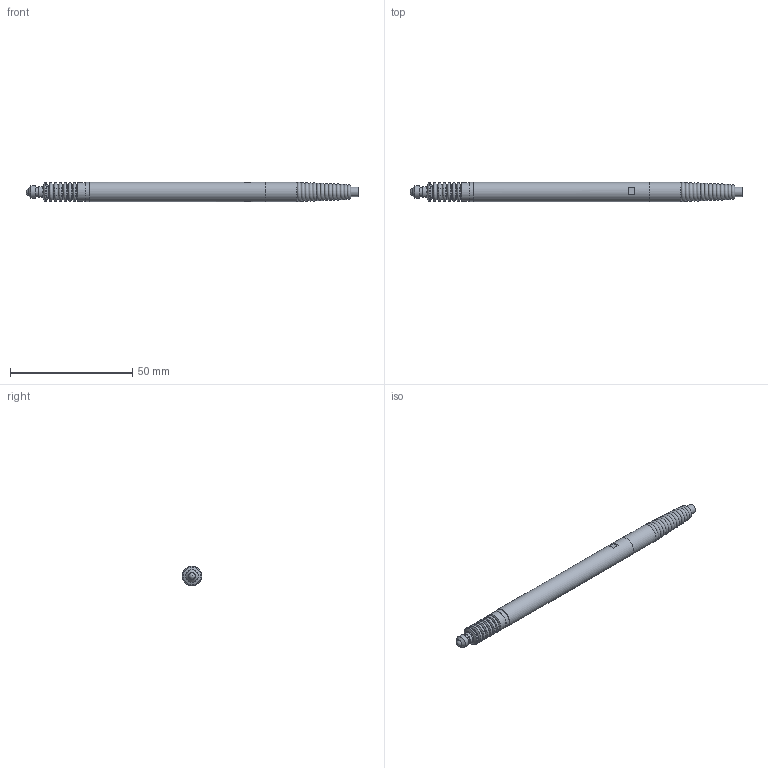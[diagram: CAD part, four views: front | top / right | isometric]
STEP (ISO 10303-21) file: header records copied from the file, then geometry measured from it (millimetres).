
FILE_DESCRIPTION(('STEP AP203'),'1');
FILE_NAME('IP-8S.stp','2023-04-04T02:48:53',(' '),(' '),'Spatial InterOp 3D',' ',' ');
FILE_SCHEMA(('CONFIG_CONTROL_DESIGN'));
Length unit declared in the file: millimetre
Products named in the file (8): IP-8S; 파트1; IP-8S rubber; 부품 B; RUBBER CAP; IP-8S-1
Assembly tree (7 placements, depth 3):
  IP-8S
    파트1
    파트1
    IP-8S rubber
      부품 B
      RUBBER CAP
    IP-8S-1
    IP-8S-1
Bounding box: 136 x 7.98 x 8 mm (x, y, z)
Volume: 5931.4 mm3; surface area: 4566.3 mm2
Topology: 6 solids, 6 shells, 95 faces, 175 edges, 101 vertices
Faces by surface type: torus 30, plane 26, cone 23, cylinder 15, sphere 1
Full cylindrical faces by diameter (mm): 2.5 x1, 3.4 x1, 3.8 x1, 4 x1, 4.1 x1, 4.5 x1, 5 x1, 5.5 x1, 6 x2, 6.8 x1, 7.7 x1, 7.9 x2, 8 x1
Entity records: 2302 total; most frequent: DIRECTION 392, CARTESIAN_POINT 292, AXIS2_PLACEMENT_3D 192, ORIENTED_EDGE 192, EDGE_LOOP 176, FACE_OUTER_BOUND 140, EDGE_CURVE 96, ADVANCED_FACE 95
